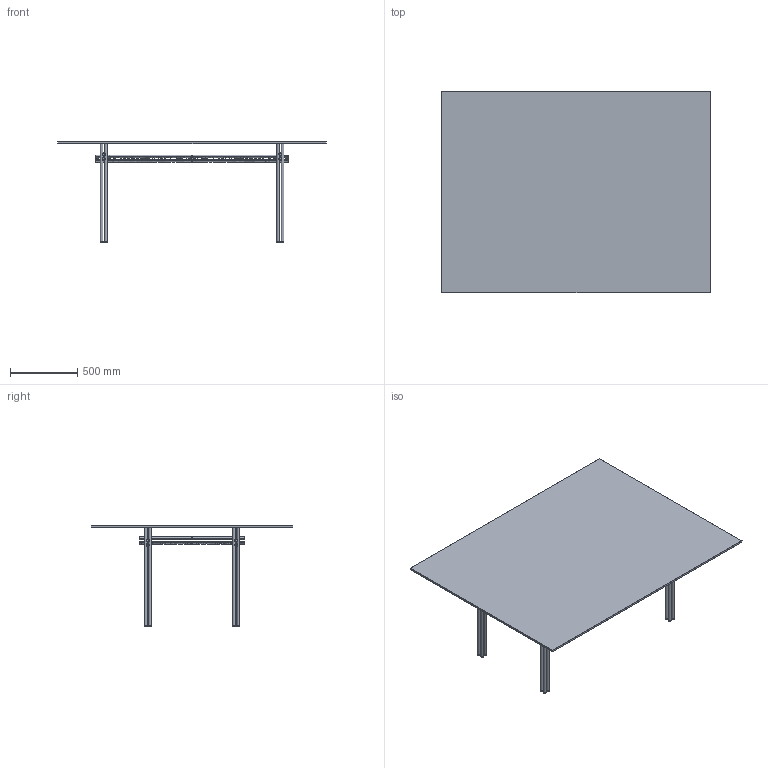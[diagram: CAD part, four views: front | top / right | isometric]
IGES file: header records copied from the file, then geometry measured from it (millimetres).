
Global section: file name: C:\Users\l.marzoli\Desktop\3D_files_2022\CRISTALINE-table_3D\200x150\CRISTALINE-200x150.igs; native system: Rhinoceros ( Aug 11 2021 ); preprocessor: Trout Lake IGES 012 Aug 11 2021; date: 221018.155656; units: millimetre
Bounding box: 2000 x 1499.84 x 749.51 mm (x, y, z)
Surface area: 8648144.5 mm2 (no closed solid volume)
Topology: 0 solids, 0 shells, 482 faces, 205252 edges, 205156 vertices
Faces by surface type: bspline 482
